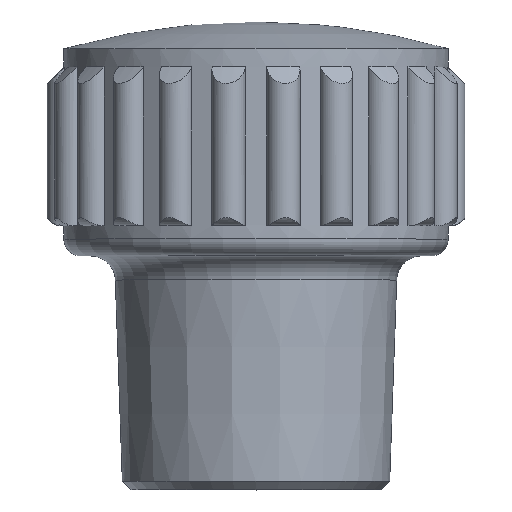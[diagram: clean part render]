
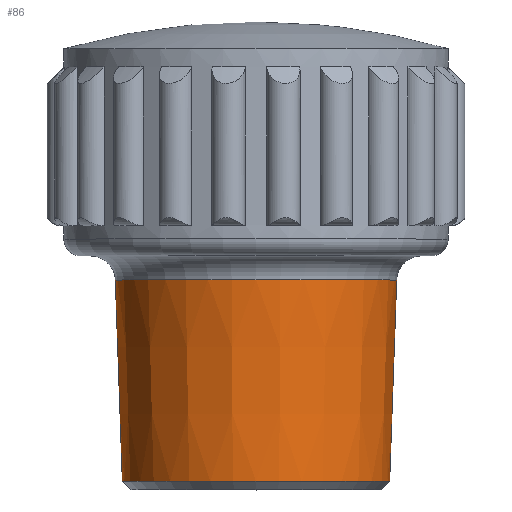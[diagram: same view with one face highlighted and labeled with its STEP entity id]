
A CAD part, top view. The second image highlights one B-rep face of the part: STEP entity #86.
In plain terms, the highlighted conical face has half-angle 2 degrees and reference radius 8.421 mm.
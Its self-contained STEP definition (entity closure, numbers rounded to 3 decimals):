
#86 = ADVANCED_FACE( '', ( #202, #203 ), #204, .T. );
#202 = FACE_BOUND( '', #389, .T. );
#203 = FACE_OUTER_BOUND( '', #390, .T. );
#204 = CONICAL_SURFACE( '', #391, 8.421, 0.035 );
#389 = EDGE_LOOP( '', ( #672 ) );
#390 = EDGE_LOOP( '', ( #673 ) );
#391 = AXIS2_PLACEMENT_3D( '', #674, #675, #676 );
#672 = ORIENTED_EDGE( '', *, *, #1145, .F. );
#673 = ORIENTED_EDGE( '', *, *, #1146, .T. );
#674 = CARTESIAN_POINT( '', ( 0., 12.552, 0. ) );
#675 = DIRECTION( '', ( 0., 1., 0. ) );
#676 = DIRECTION( '', ( -1., 0., 0. ) );
#1145 = EDGE_CURVE( '', #1382, #1382, #1383, .T. );
#1146 = EDGE_CURVE( '', #1384, #1384, #1385, .T. );
#1382 = VERTEX_POINT( '', #1776 );
#1383 = CIRCLE( '', #1777, 8. );
#1384 = VERTEX_POINT( '', #1778 );
#1385 = CIRCLE( '', #1779, 8.421 );
#1776 = CARTESIAN_POINT( '', ( 8., 0.499, 0. ) );
#1777 = AXIS2_PLACEMENT_3D( '', #2698, #2699, #2700 );
#1778 = CARTESIAN_POINT( '', ( 8.421, 12.552, 0. ) );
#1779 = AXIS2_PLACEMENT_3D( '', #2701, #2702, #2703 );
#2698 = CARTESIAN_POINT( '', ( 0., 0.499, 0. ) );
#2699 = DIRECTION( '', ( 0., -1., 0. ) );
#2700 = DIRECTION( '', ( 1., 0., 0. ) );
#2701 = CARTESIAN_POINT( '', ( 0., 12.552, 0. ) );
#2702 = DIRECTION( '', ( 0., -1., 0. ) );
#2703 = DIRECTION( '', ( 1., 0., 0. ) );
